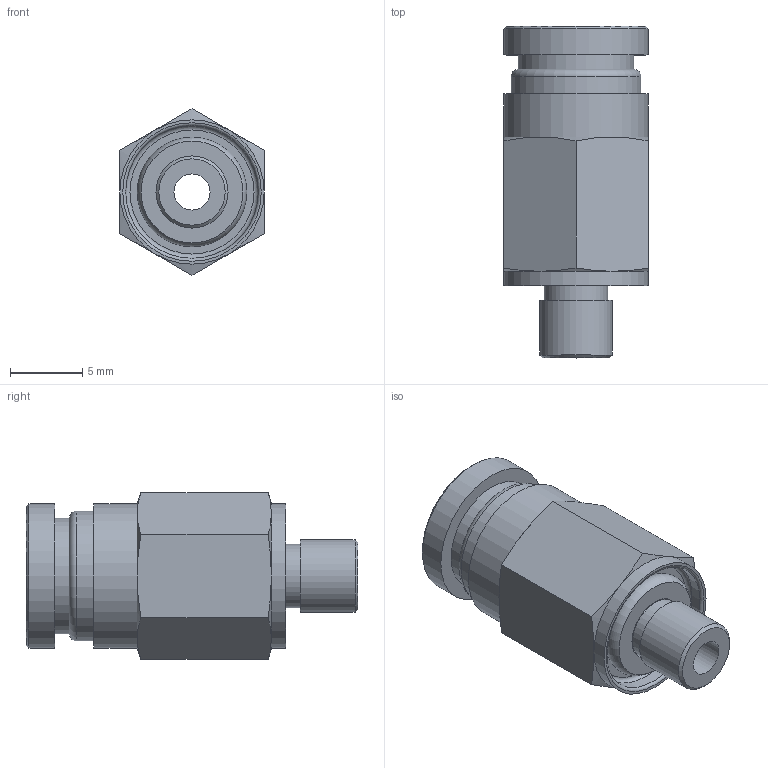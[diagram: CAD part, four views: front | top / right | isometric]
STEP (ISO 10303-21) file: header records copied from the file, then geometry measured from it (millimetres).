
FILE_DESCRIPTION(/* description */ (''),/* implementation_level */ '2;1');
FILE_NAME(/* name */ 'LXH18 0004 M5.stp',/* time_stamp */ '2026-04-20T19:10:10+02:00',/* author */ ('freju'),/* organization */ (''),/* preprocessor_version */ 'ST-DEVELOPER v20.1',/* originating_system */ 'Autodesk Inventor 2026',/* authorisation */ '');
FILE_SCHEMA (('AUTOMOTIVE_DESIGN { 1 0 10303 214 3 1 1 }'));
Length unit declared in the file: millimetre
Products named in the file (4): LXH18 0004 M5; LXH18 0004 M5_1; O-Ring; ISO 3601-1 - A 0040 G
Assembly tree (3 placements, depth 3):
  LXH18 0004 M5
    LXH18 0004 M5_1
    O-Ring
      ISO 3601-1 - A 0040 G
Bounding box: 10 x 23 x 11.55 mm (x, y, z)
Volume: 1290 mm3; surface area: 1262 mm2
Topology: 2 solids, 2 shells, 49 faces, 100 edges, 62 vertices
Faces by surface type: plane 17, cone 14, cylinder 11, torus 7
Full cylindrical faces by diameter (mm): 2.5 x1, 4 x2, 4.4 x1, 5 x1, 8 x1, 9 x1, 9.2 x1, 10 x3
Entity records: 1425 total; most frequent: CARTESIAN_POINT 266, DIRECTION 245, ORIENTED_EDGE 200, AXIS2_PLACEMENT_3D 113, EDGE_CURVE 100, VERTEX_POINT 62, EDGE_LOOP 60, CIRCLE 57
